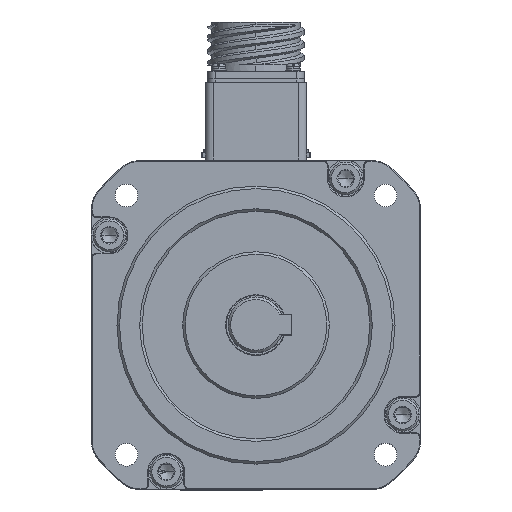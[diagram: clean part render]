
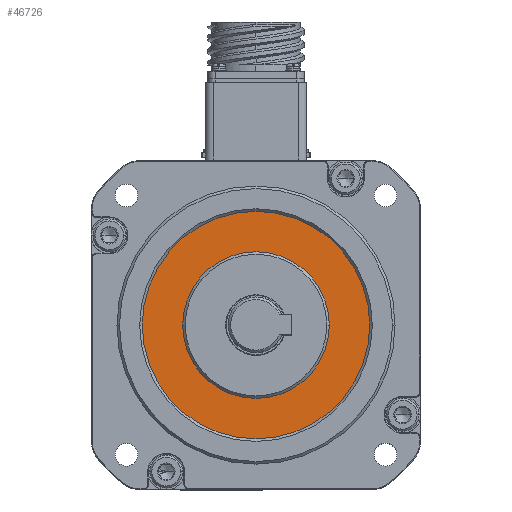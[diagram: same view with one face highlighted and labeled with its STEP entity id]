
A CAD part, top view. The second image highlights one B-rep face of the part: STEP entity #46726.
In plain terms, the highlighted planar face has unit normal (0, 0, 1).
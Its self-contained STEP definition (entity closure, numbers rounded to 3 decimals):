
#5144 = VERTEX_POINT ( 'NONE', #153774 ) ;
#5529 = DIRECTION ( 'NONE',  ( 0., 0., -1. ) ) ;
#12359 = DIRECTION ( 'NONE',  ( 0., 0., 1. ) ) ;
#13756 = DIRECTION ( 'NONE',  ( 1., 0., 0. ) ) ;
#16578 = CIRCLE ( 'NONE', #157432, 29. ) ;
#23859 = EDGE_LOOP ( 'NONE', ( #81441, #67676 ) ) ;
#25223 = FACE_BOUND ( 'NONE', #23859, .T. ) ;
#28007 = EDGE_CURVE ( 'NONE', #5144, #157644, #142525, .T. ) ;
#33049 = AXIS2_PLACEMENT_3D ( 'NONE', #59870, #149235, #72702 ) ;
#46726 = ADVANCED_FACE ( 'NONE', ( #153043, #25223 ), #140900, .T. ) ;
#59870 = CARTESIAN_POINT ( 'NONE',  ( 103.005, 174.862, 188.352 ) ) ;
#61021 = CIRCLE ( 'NONE', #155652, 45. ) ;
#64408 = CARTESIAN_POINT ( 'NONE',  ( 162.855, 174.862, 188.352 ) ) ;
#67168 = DIRECTION ( 'NONE',  ( 0., 0., -1. ) ) ;
#67676 = ORIENTED_EDGE ( 'NONE', *, *, #28007, .T. ) ;
#70299 = EDGE_LOOP ( 'NONE', ( #123419, #111076 ) ) ;
#72702 = DIRECTION ( 'NONE',  ( -1., 0., 0. ) ) ;
#76981 = VERTEX_POINT ( 'NONE', #86711 ) ;
#81441 = ORIENTED_EDGE ( 'NONE', *, *, #140592, .T. ) ;
#81831 = CARTESIAN_POINT ( 'NONE',  ( 103.005, 174.862, 188.352 ) ) ;
#86711 = CARTESIAN_POINT ( 'NONE',  ( 58.005, 174.862, 188.352 ) ) ;
#88593 = CARTESIAN_POINT ( 'NONE',  ( 103.005, 174.862, 188.352 ) ) ;
#90013 = DIRECTION ( 'NONE',  ( 0., 0., 1. ) ) ;
#91307 = VERTEX_POINT ( 'NONE', #92188 ) ;
#92067 = CIRCLE ( 'NONE', #33049, 45. ) ;
#92188 = CARTESIAN_POINT ( 'NONE',  ( 148.005, 174.862, 188.352 ) ) ;
#92547 = EDGE_CURVE ( 'NONE', #76981, #91307, #61021, .T. ) ;
#94621 = DIRECTION ( 'NONE',  ( 1., 0., 0. ) ) ;
#98804 = EDGE_CURVE ( 'NONE', #91307, #76981, #92067, .T. ) ;
#101494 = DIRECTION ( 'NONE',  ( -1., 0., 0. ) ) ;
#104394 = AXIS2_PLACEMENT_3D ( 'NONE', #81831, #5529, #94621 ) ;
#111076 = ORIENTED_EDGE ( 'NONE', *, *, #98804, .T. ) ;
#112662 = AXIS2_PLACEMENT_3D ( 'NONE', #64408, #90013, #13756 ) ;
#123419 = ORIENTED_EDGE ( 'NONE', *, *, #92547, .T. ) ;
#140592 = EDGE_CURVE ( 'NONE', #157644, #5144, #16578, .T. ) ;
#140900 = PLANE ( 'NONE',  #112662 ) ;
#142525 = CIRCLE ( 'NONE', #104394, 29. ) ;
#143653 = CARTESIAN_POINT ( 'NONE',  ( 103.005, 174.862, 188.352 ) ) ;
#149235 = DIRECTION ( 'NONE',  ( 0., 0., 1. ) ) ;
#153043 = FACE_OUTER_BOUND ( 'NONE', #70299, .T. ) ;
#153774 = CARTESIAN_POINT ( 'NONE',  ( 74.005, 174.862, 188.352 ) ) ;
#154388 = CARTESIAN_POINT ( 'NONE',  ( 132.005, 174.862, 188.352 ) ) ;
#155652 = AXIS2_PLACEMENT_3D ( 'NONE', #88593, #12359, #101494 ) ;
#156566 = DIRECTION ( 'NONE',  ( 1., 0., 0. ) ) ;
#157432 = AXIS2_PLACEMENT_3D ( 'NONE', #143653, #67168, #156566 ) ;
#157644 = VERTEX_POINT ( 'NONE', #154388 ) ;
